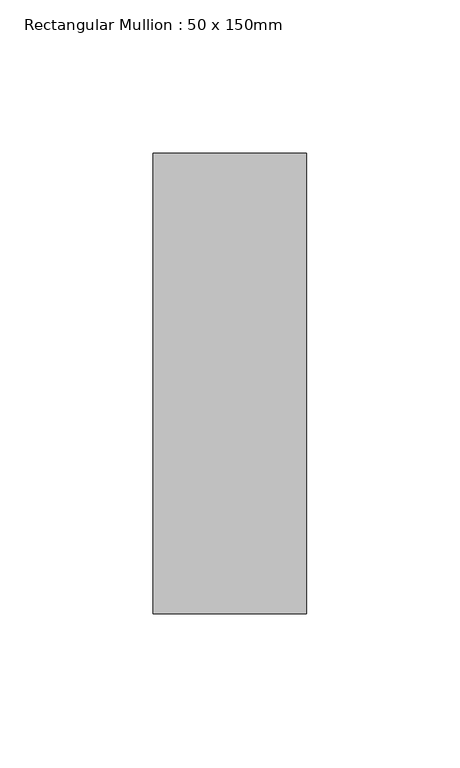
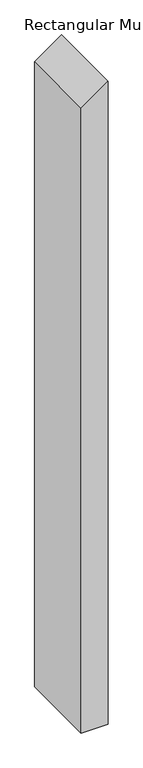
"""IFC4 building model written with IfcOpenShell, lengths in millimetres: member geometry, Rectangular Mullion : 50 x 150mm."""

from ifc_helpers import new_model, si_unit, frame, origin, place, context, project, spatial, polyline, outline, extrude, source, transform, mapped, element, save


def rectangular_mullion_50_x_150mm_7725a657(model_context):
    return source(origin(), model_context, "Body", "SweptSolid", [
        extrude(outline(polyline([(0.0, 0.0), (-35.4620757, -50.0), (-1264.1327917, -50.0), (-1264.1327917, 0.0), (0.0, 0.0)])), frame((0.0, -75.0, 0.0), z_axis=(0.0, 1.0, 0.0), x_axis=(0.0, 0.0, 1.0)), (0.0, 0.0, 1.0), 150.0),
    ])


if __name__ == "__main__":
    model = new_model("IFC4")
    model_context = context("Model", 3, world=origin())
    ifc_project = project(units=[si_unit("LENGTHUNIT", "METRE", prefix="MILLI")], contexts=[model_context])
    site = spatial("IfcSite", under=ifc_project)
    building = spatial("IfcBuilding", under=site)
    placement = place(None, origin())
    rectangular_mullion_50_x_150mm_shape = rectangular_mullion_50_x_150mm_7725a657(model_context)
    element("IfcMember", 1, ObjectType="Rectangular Mullion : 50 x 150mm", at=placement, inside=building, context=model_context, shape_type="MappedRepresentation", body=[
        mapped(rectangular_mullion_50_x_150mm_shape, transform((0.0, 0.0, 0.0), x_axis=(1.0, 0.0, 0.0), y_axis=(0.0, 1.0, 0.0), z_axis=(0.0, 0.0, 1.0))),
    ])
    save(model, "model.ifc")
